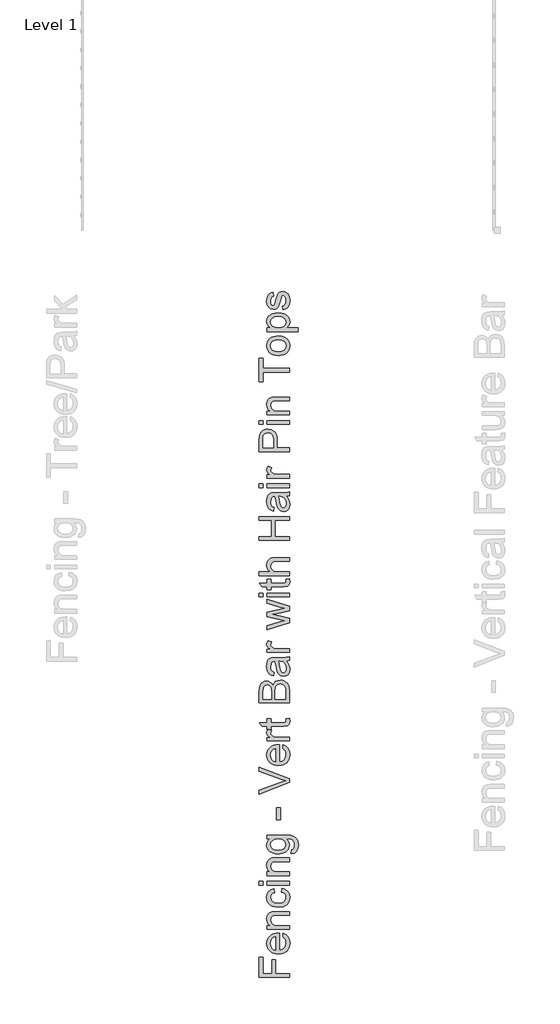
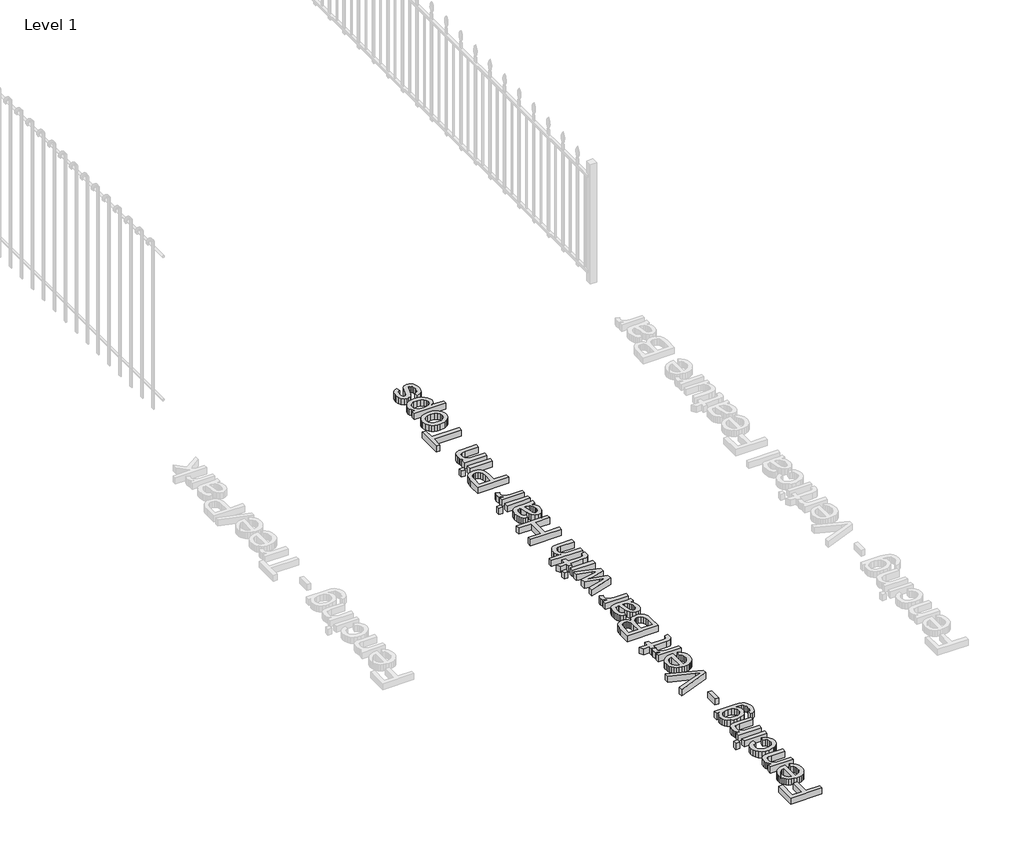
# One storey, part 2 of 7: 1 proxy.
"""IFC4 building model written with IfcOpenShell, lengths in millimetres."""

from ifc_helpers import new_model, si_unit, origin, origin_with_axes, place, context, project, spatial, polyline, outline, extrude, element, save

model = new_model("IFC4")

# Units and contexts
model_context = context("Model", 3, world=origin())
ifc_project = project(units=[si_unit("LENGTHUNIT", "METRE", prefix="MILLI")], contexts=[model_context])

# Site, building, storey
site = spatial("IfcSite", under=ifc_project)
building = spatial("IfcBuilding", under=site)
storey = spatial("IfcBuildingStorey", under=building, Name="Level 1", Elevation=0.0)

# Proxy
placement = place(None, origin())
element("IfcBuildingElementProxy", 1, Name="250mm Arial", ObjectType="250mm Arial", at=placement, inside=storey, context=model_context, shape_type="SweptSolid", body=[
    extrude(outline(polyline([(44499.2819875, -62577.9118226), (44253.1281413, -62577.9118226), (44253.1281413, -62412.5272072), (44283.8973721, -62412.5272072), (44283.8973721, -62547.1425918), (44356.9742952, -62547.1425918), (44356.9742952, -62431.7579764), (44387.7435259, -62431.7579764), (44387.7435259, -62547.1425918), (44499.2819875, -62547.1425918), (44499.2819875, -62577.9118226)])), origin_with_axes(), (0.0, 0.0, 1.0), 50.8),
    extrude(outline(polyline([(44445.4358336, -62247.5031687), (44449.2819875, -62217.3348995), (44472.0133577, -62228.2047913), (44489.0055452, -62245.5500437), (44499.5974923, -62268.9800317), (44503.1281413, -62298.1041303), (44501.6050794, -62317.1959271), (44497.0358937, -62334.2068947), (44489.4205842, -62349.1370329), (44478.7591509, -62361.9863418), (44465.3483186, -62372.3191243), (44449.484812, -62379.6996831), (44431.1686311, -62384.1280185), (44410.3997759, -62385.6041303), (44388.926669, -62384.1129944), (44370.0001365, -62379.639587), (44353.6201786, -62372.1839079), (44339.7867952, -62361.7459572), (44328.796711, -62348.9304524), (44320.9466509, -62334.342111), (44316.2366149, -62317.9809331), (44314.6666029, -62299.8469187), (44316.2328589, -62282.2969638), (44320.9316269, -62266.4259452), (44328.7629069, -62252.2338628), (44339.726699, -62239.7207168), (44353.5300344, -62229.5062487), (44369.8799442, -62222.2102), (44388.7764286, -62217.8325708), (44410.2194875, -62216.373361), (44418.5127567, -62216.5536495), (44418.5127567, -62354.8348995), (44441.5446077, -62349.5088779), (44458.476699, -62337.1365822), (44468.8883577, -62319.2805125), (44472.3589106, -62297.5031687), (44470.7513384, -62281.1269668), (44465.9286221, -62267.3348995), (44457.5902807, -62256.1269668), (44445.4358336, -62247.5031687)]), holes=[polyline([(44387.7435259, -62354.8348995), (44387.7435259, -62247.1425918), (44371.4875163, -62251.3042505), (44359.8589106, -62259.4623033), (44349.0416029, -62277.4010053), (44345.4358336, -62299.967111), (44348.312937, -62320.7077961), (44356.9442471, -62337.857736), (44370.3982735, -62349.7793106), (44387.7435259, -62354.8348995)])]), origin_with_axes(), (0.0, 0.0, 1.0), 50.8),
    extrude(outline(polyline([(44499.2819875, -62185.6041303), (44318.5127567, -62185.6041303), (44318.5127567, -62154.8348995), (44343.7531413, -62154.8348995), (44331.0277807, -62144.1452961), (44321.9382375, -62131.3072553), (44316.4845115, -62116.3207769), (44314.6666029, -62099.185861), (44320.5259779, -62070.1293706), (44327.3018192, -62058.545837), (44335.9105932, -62050.2976399), (44358.5367952, -62041.0728803), (44388.2843913, -62039.4502841), (44499.2819875, -62039.4502841), (44499.2819875, -62070.2195149), (44392.4310259, -62070.2195149), (44365.2074682, -62073.765188), (44357.1019995, -62078.6705365), (44350.8144394, -62086.295236), (44345.4358336, -62107.4190341), (44348.4556654, -62125.4403682), (44357.5151606, -62140.8024476), (44375.0181654, -62151.3267865), (44403.3685259, -62154.8348995), (44499.2819875, -62154.8348995), (44499.2819875, -62185.6041303)])), origin_with_axes(), (0.0, 0.0, 1.0), 50.8),
    extrude(outline(polyline([(44433.8973721, -61881.7579764), (44437.7435259, -61850.9887456), (44465.109812, -61859.5674716), (44485.7904009, -61875.6882649), (44498.7937062, -61897.8336976), (44503.1281413, -61924.4863418), (44501.6163475, -61941.743328), (44497.0809658, -61957.2162096), (44489.5219965, -61970.9049866), (44478.9394394, -61982.8096591), (44465.5323631, -61992.4457018), (44449.499836, -61999.3285894), (44409.5584298, -62004.8348995), (44382.1771197, -62002.4836375), (44358.4466509, -61995.4298514), (44339.2834899, -61983.560861), (44325.6041029, -61966.763986), (44317.4009779, -61946.6693346), (44314.6666029, -61924.9070149), (44318.4226125, -61898.9079163), (44329.6906413, -61878.1221591), (44347.8697279, -61863.2108009), (44372.3589106, -61854.8348995), (44376.2050644, -61885.6041303), (44362.781086, -61891.1855606), (44353.1581894, -61899.8769668), (44347.3664226, -61911.1975798), (44345.4358336, -61924.6666303), (44349.2369154, -61944.5509452), (44360.6401606, -61960.3336976), (44380.2615548, -61970.6326759), (44408.7170836, -61974.0656687), (44437.5557255, -61970.7077961), (44457.2447279, -61960.6341783), (44468.5803649, -61945.1368827), (44472.3589106, -61925.5079764), (44470.0001365, -61909.5749836), (44462.9238144, -61896.5115822), (44450.9496557, -61887.0088779), (44433.8973721, -61881.7579764)])), origin_with_axes(), (0.0, 0.0, 1.0), 50.8),
    extrude(outline(polyline([(44283.8973721, -61824.0656687), (44253.1281413, -61824.0656687), (44253.1281413, -61793.296438), (44283.8973721, -61793.296438), (44283.8973721, -61824.0656687)])), origin_with_axes(), (0.0, 0.0, 1.0), 50.8),
    extrude(outline(polyline([(44499.2819875, -61824.0656687), (44318.5127567, -61824.0656687), (44318.5127567, -61793.296438), (44499.2819875, -61793.296438), (44499.2819875, -61824.0656687)])), origin_with_axes(), (0.0, 0.0, 1.0), 50.8),
    extrude(outline(polyline([(44499.2819875, -61747.1425918), (44318.5127567, -61747.1425918), (44318.5127567, -61716.373361), (44343.7531413, -61716.373361), (44331.0277807, -61705.6837577), (44321.9382375, -61692.8457168), (44316.4845115, -61677.8592384), (44314.6666029, -61660.7243226), (44320.5259779, -61631.6678322), (44327.3018192, -61620.0842985), (44335.9105932, -61611.8361014), (44358.5367952, -61602.6113418), (44388.2843913, -61600.9887456), (44499.2819875, -61600.9887456), (44499.2819875, -61631.7579764), (44392.4310259, -61631.7579764), (44365.2074682, -61635.3036495), (44357.1019995, -61640.2089981), (44350.8144394, -61647.8336976), (44345.4358336, -61668.9574956), (44348.4556654, -61686.9788298), (44357.5151606, -61702.3409091), (44375.0181654, -61712.8652481), (44403.3685259, -61716.373361), (44499.2819875, -61716.373361), (44499.2819875, -61747.1425918)])), origin_with_axes(), (0.0, 0.0, 1.0), 50.8),
    extrude(outline(polyline([(44514.6666029, -61566.373361), (44518.5127567, -61535.6041303), (44528.1281413, -61532.2086976), (44534.7387182, -61525.6281687), (44539.8769394, -61512.6924716), (44541.5896798, -61495.7603803), (44539.6515788, -61477.701486), (44533.8372759, -61464.2699956), (44524.5223721, -61454.9550918), (44512.0824682, -61449.2459572), (44476.2050644, -61447.1425918), (44493.5127567, -61468.8072553), (44499.2819875, -61495.2195149), (44497.6030512, -61512.0896321), (44492.5662423, -61526.9427721), (44484.1715608, -61539.778935), (44472.4190067, -61550.5981206), (44442.8817471, -61565.3141663), (44407.9959298, -61570.2195149), (44383.1536822, -61568.0184932), (44360.3096317, -61561.4154283), (44340.9511582, -61550.6431928), (44326.5656413, -61535.9346591), (44317.6413625, -61517.7931327), (44314.6666029, -61496.7219187), (44316.3492952, -61482.3326459), (44321.3973721, -61469.2730005), (44329.8108336, -61457.5429824), (44341.5896798, -61447.1425918), (44318.5127567, -61447.1425918), (44318.5127567, -61416.373361), (44474.5824682, -61416.373361), (44510.6176245, -61418.4767264), (44534.3480932, -61424.7868226), (44550.0857735, -61435.6567144), (44562.1425644, -61451.4394668), (44569.804824, -61471.7895269), (44572.3589106, -61496.3613418), (44568.7606533, -61524.9896471), (44557.9658817, -61547.5332168), (44539.9445476, -61561.9938538), (44514.6666029, -61566.373361)]), holes=[polyline([(44405.8925644, -61539.4502841), (44434.1152207, -61536.1675317), (44453.5187663, -61526.3192745), (44464.7642591, -61511.5130846), (44468.5127567, -61493.3565341), (44464.7867952, -61475.3352), (44453.6089106, -61460.4538899), (44434.4532615, -61450.4704163), (44406.7940067, -61447.1425918), (44380.1188264, -61450.5680726), (44360.9105932, -61460.8445149), (44349.3045235, -61475.9436735), (44345.4358336, -61493.8373033), (44349.2444274, -61511.4079163), (44360.6702086, -61526.138986), (44379.5929851, -61536.1224596), (44405.8925644, -61539.4502841)])]), origin_with_axes(), (0.0, 0.0, 1.0), 50.8),
    extrude(outline(polyline([(44426.2050644, -61289.4502841), (44395.4358336, -61289.4502841), (44395.4358336, -61193.296438), (44426.2050644, -61193.296438), (44426.2050644, -61289.4502841)])), origin_with_axes(), (0.0, 0.0, 1.0), 50.8),
    extrude(outline(polyline([(44499.2819875, -60985.9647072), (44253.1281413, -61083.921438), (44253.1281413, -61050.9887456), (44430.4718913, -60985.4238418), (44470.4358336, -60972.1425918), (44430.4718913, -60959.0416303), (44253.1281413, -60893.296438), (44253.1281413, -60860.3637456), (44499.2819875, -60954.1738418), (44499.2819875, -60985.9647072)])), origin_with_axes(), (0.0, 0.0, 1.0), 50.8),
    extrude(outline(polyline([(44445.4358336, -60709.0416303), (44449.2819875, -60678.873361), (44472.0133577, -60689.7432529), (44489.0055452, -60707.0885053), (44499.5974923, -60730.5184932), (44503.1281413, -60759.6425918), (44501.6050794, -60778.7343887), (44497.0358937, -60795.7453562), (44489.4205842, -60810.6754944), (44478.7591509, -60823.5248033), (44465.3483186, -60833.8575858), (44449.484812, -60841.2381447), (44431.1686311, -60845.66648), (44410.3997759, -60847.1425918), (44388.926669, -60845.651456), (44370.0001365, -60841.1780485), (44353.6201786, -60833.7223694), (44339.7867952, -60823.2844187), (44328.796711, -60810.4689139), (44320.9466509, -60795.8805726), (44316.2366149, -60779.5193947), (44314.6666029, -60761.3853803), (44316.2328589, -60743.8354253), (44320.9316269, -60727.9644067), (44328.7629069, -60713.7723244), (44339.726699, -60701.2591783), (44353.5300344, -60691.0447102), (44369.8799442, -60683.7486615), (44388.7764286, -60679.3710323), (44410.2194875, -60677.9118226), (44418.5127567, -60678.092111), (44418.5127567, -60816.373361), (44441.5446077, -60811.0473394), (44458.476699, -60798.6750437), (44468.8883577, -60780.818974), (44472.3589106, -60759.0416303), (44470.7513384, -60742.6654283), (44465.9286221, -60728.873361), (44457.5902807, -60717.6654283), (44445.4358336, -60709.0416303)]), holes=[polyline([(44387.7435259, -60816.373361), (44387.7435259, -60708.6810533), (44371.4875163, -60712.842712), (44359.8589106, -60721.0007649), (44349.0416029, -60738.9394668), (44345.4358336, -60761.5055726), (44348.312937, -60782.2462577), (44356.9442471, -60799.3961976), (44370.3982735, -60811.3177721), (44387.7435259, -60816.373361)])]), origin_with_axes(), (0.0, 0.0, 1.0), 50.8),
    extrude(outline(polyline([(44499.2819875, -60647.1425918), (44318.5127567, -60647.1425918), (44318.5127567, -60620.2195149), (44345.2555452, -60620.2195149), (44329.7507375, -60610.2736014), (44320.6161221, -60601.108938), (44314.6666029, -60581.8781687), (44317.0404009, -60566.5536495), (44324.1617952, -60550.9887456), (44351.7459298, -60561.265188), (44345.4358336, -60582.8998033), (44346.9532615, -60592.0870029), (44351.5055452, -60600.2976399), (44368.3324682, -60611.3853803), (44404.2699682, -60616.373361), (44499.2819875, -60616.373361), (44499.2819875, -60647.1425918)])), origin_with_axes(), (0.0, 0.0, 1.0), 50.8),
    extrude(outline(polyline([(44473.6209298, -60466.373361), (44500.1834298, -60462.5272072), (44503.1281413, -60485.5440341), (44501.8510981, -60500.3126639), (44498.0199682, -60511.3252841), (44484.6185259, -60524.185861), (44449.7026606, -60527.9118226), (44349.2819875, -60527.9118226), (44349.2819875, -60550.9887456), (44318.5127567, -60550.9887456), (44318.5127567, -60527.9118226), (44274.5824682, -60527.9118226), (44256.4935259, -60497.1425918), (44318.5127567, -60497.1425918), (44318.5127567, -60466.373361), (44349.2819875, -60466.373361), (44349.2819875, -60497.1425918), (44448.8012182, -60497.1425918), (44464.6666029, -60495.5199956), (44470.2855932, -60490.2615822), (44472.3589106, -60479.7748033), (44473.6209298, -60466.373361)])), origin_with_axes(), (0.0, 0.0, 1.0), 50.8),
    extrude(outline(polyline([(44499.2819875, -60335.6041303), (44253.1281413, -60335.6041303), (44253.1281413, -60241.6738418), (44254.938538, -60215.8400077), (44260.3697279, -60195.670236), (44269.5569274, -60180.2105005), (44282.6353529, -60168.5067745), (44298.0199682, -60161.1374836), (44314.1257375, -60158.6810533), (44328.9469514, -60160.7468586), (44342.8817471, -60166.9442745), (44355.0737543, -60177.3183731), (44364.6666029, -60191.9142264), (44373.7711702, -60174.4788298), (44387.6233336, -60161.5957168), (44405.3066269, -60153.6404884), (44425.9045836, -60150.9887456), (44443.0695476, -60152.7991423), (44458.9875163, -60158.2303322), (44472.524175, -60166.3358009), (44482.5452086, -60176.1690341), (44495.0452086, -60202.9418706), (44499.2819875, -60242.3949956), (44499.2819875, -60335.6041303)]), holes=[polyline([(44353.1281413, -60304.8348995), (44353.1281413, -60248.6449956), (44350.4839106, -60215.8324956), (44345.9241149, -60204.3466182), (44339.0956894, -60196.0909091), (44330.1038024, -60191.1104404), (44319.0536221, -60189.4502841), (44308.3264586, -60190.9977601), (44298.9815067, -60195.640188), (44291.687336, -60203.1672312), (44287.1125163, -60213.3685533), (44283.8973721, -60252.9118226), (44283.8973721, -60304.8348995), (44353.1281413, -60304.8348995)]), polyline([(44468.5127567, -60304.8348995), (44468.5127567, -60241.733938), (44467.3108336, -60218.8973995), (44460.6101125, -60199.576486), (44446.9382375, -60186.7760053), (44426.2050644, -60181.7579764), (44413.3444875, -60183.2303322), (44402.2867952, -60187.6473995), (44393.640461, -60195.3622432), (44388.0139586, -60206.7279283), (44383.8973721, -60244.7387456), (44383.8973721, -60304.8348995), (44468.5127567, -60304.8348995)])]), origin_with_axes(), (0.0, 0.0, 1.0), 50.8),
    extrude(outline(polyline([(44476.2050644, -59997.1425918), (44488.8102327, -60011.8436134), (44497.0584298, -60026.9803322), (44501.6107134, -60042.8983009), (44503.1281413, -60059.9430726), (44499.4773, -60085.6567144), (44488.5247759, -60104.624563), (44471.8931654, -60116.3207769), (44451.2050644, -60120.2195149), (44426.8661221, -60114.3300918), (44409.1978529, -60098.8553322), (44399.101699, -60077.310861), (44394.4742952, -60050.6882649), (44383.8973721, -59997.3228803), (44377.0464106, -59997.1425918), (44363.3144394, -59999.2609812), (44354.3300644, -60005.6161495), (44347.6593913, -60019.8288899), (44345.4358336, -60039.6305726), (44346.9157014, -60057.9598995), (44351.3553048, -60070.7603803), (44359.5659418, -60079.4893466), (44372.3589106, -60085.6041303), (44368.5127567, -60116.373361), (44351.6858336, -60111.0323154), (44338.4646798, -60103.062063), (44328.3535019, -60091.7189139), (44320.8565067, -60076.2591783), (44316.2140788, -60057.3514259), (44314.6666029, -60035.6642264), (44316.0337904, -60014.8634452), (44320.1353529, -59998.374563), (44326.3027207, -59985.9421711), (44333.867324, -59977.310861), (44354.7507375, -59967.8757649), (44381.6738144, -59966.373361), (44419.9550644, -59966.373361), (44473.4105932, -59964.810861), (44499.2819875, -59958.6810533), (44499.2819875, -59989.4502841), (44476.2050644, -59997.1425918)]), holes=[polyline([(44414.6666029, -59997.1425918), (44424.101699, -60046.7820149), (44429.0896798, -60073.2543706), (44437.2026606, -60085.2435533), (44449.0416029, -60089.4502841), (44458.1912423, -60087.1591182), (44465.6882375, -60080.2856206), (44470.6912423, -60068.9800317), (44472.3589106, -60053.3925918), (44470.5184658, -60036.8661495), (44464.9971317, -60022.2627841), (44456.8616149, -60010.4238418), (44447.1786221, -60002.1906687), (44423.3805452, -59997.3228803), (44414.6666029, -59997.1425918)])]), origin_with_axes(), (0.0, 0.0, 1.0), 50.8),
    extrude(outline(polyline([(44499.2819875, -59924.0656687), (44318.5127567, -59924.0656687), (44318.5127567, -59897.1425918), (44345.2555452, -59897.1425918), (44329.7507375, -59887.1966783), (44320.6161221, -59878.0320149), (44314.6666029, -59858.8012456), (44317.0404009, -59843.4767264), (44324.1617952, -59827.9118226), (44351.7459298, -59838.1882649), (44345.4358336, -59859.8228803), (44346.9532615, -59869.0100798), (44351.5055452, -59877.2207168), (44368.3324682, -59888.3084572), (44404.2699682, -59893.296438), (44499.2819875, -59893.296438), (44499.2819875, -59924.0656687)])), origin_with_axes(), (0.0, 0.0, 1.0), 50.8),
    extrude(outline(polyline([(44499.2819875, -59682.5392264), (44318.5127567, -59737.5272072), (44318.5127567, -59705.5560533), (44423.9815067, -59674.3661495), (44461.6617952, -59665.0512456), (44425.3637182, -59657.4190341), (44318.5127567, -59632.5993226), (44318.5127567, -59595.9406687), (44425.0632375, -59571.2411495), (44457.9358336, -59564.4502841), (44423.2603529, -59554.7147072), (44318.5127567, -59523.4647072), (44318.5127567, -59491.373361), (44499.2819875, -59546.7820149), (44499.2819875, -59583.9815341), (44393.2723721, -59607.5993226), (44360.2194875, -59614.4502841), (44499.2819875, -59644.9190341), (44499.2819875, -59682.5392264)])), origin_with_axes(), (0.0, 0.0, 1.0), 50.8),
    extrude(outline(polyline([(44283.8973721, -59470.2195149), (44253.1281413, -59470.2195149), (44253.1281413, -59439.4502841), (44283.8973721, -59439.4502841), (44283.8973721, -59470.2195149)])), origin_with_axes(), (0.0, 0.0, 1.0), 50.8),
    extrude(outline(polyline([(44499.2819875, -59470.2195149), (44318.5127567, -59470.2195149), (44318.5127567, -59439.4502841), (44499.2819875, -59439.4502841), (44499.2819875, -59470.2195149)])), origin_with_axes(), (0.0, 0.0, 1.0), 50.8),
    extrude(outline(polyline([(44473.6209298, -59327.9118226), (44500.1834298, -59324.0656687), (44503.1281413, -59347.0824956), (44501.8510981, -59361.8511255), (44498.0199682, -59372.8637456), (44484.6185259, -59385.7243226), (44449.7026606, -59389.4502841), (44349.2819875, -59389.4502841), (44349.2819875, -59412.5272072), (44318.5127567, -59412.5272072), (44318.5127567, -59389.4502841), (44274.5824682, -59389.4502841), (44256.4935259, -59358.6810533), (44318.5127567, -59358.6810533), (44318.5127567, -59327.9118226), (44349.2819875, -59327.9118226), (44349.2819875, -59358.6810533), (44448.8012182, -59358.6810533), (44464.6666029, -59357.0584572), (44470.2855932, -59351.8000437), (44472.3589106, -59341.3132649), (44473.6209298, -59327.9118226)])), origin_with_axes(), (0.0, 0.0, 1.0), 50.8),
    extrude(outline(polyline([(44499.2819875, -59297.1425918), (44253.1281413, -59297.1425918), (44253.1281413, -59266.373361), (44343.632949, -59266.373361), (44330.9601726, -59255.0715281), (44321.9081894, -59242.3799716), (44316.4769995, -59228.2986916), (44314.6666029, -59212.827688), (44316.6422639, -59194.2429524), (44322.5692471, -59178.2723995), (44331.9818072, -59165.6972793), (44344.414199, -59157.2988418), (44361.4965307, -59152.5662697), (44384.8589106, -59150.9887456), (44499.2819875, -59150.9887456), (44499.2819875, -59181.7579764), (44388.0440067, -59181.7579764), (44368.7831894, -59184.2068947), (44355.5920836, -59191.5536495), (44347.9748961, -59203.3925918), (44345.4358336, -59219.3180726), (44347.148574, -59232.3213779), (44352.2867952, -59244.5284091), (44360.3547038, -59254.639587), (44370.8565067, -59261.3553322), (44403.2483336, -59266.373361), (44499.2819875, -59266.373361), (44499.2819875, -59297.1425918)])), origin_with_axes(), (0.0, 0.0, 1.0), 50.8),
    extrude(outline(polyline([(44499.2819875, -59008.6810533), (44253.1281413, -59008.6810533), (44253.1281413, -58977.9118226), (44353.1281413, -58977.9118226), (44353.1281413, -58847.1425918), (44253.1281413, -58847.1425918), (44253.1281413, -58816.373361), (44499.2819875, -58816.373361), (44499.2819875, -58847.1425918), (44383.8973721, -58847.1425918), (44383.8973721, -58977.9118226), (44499.2819875, -58977.9118226), (44499.2819875, -59008.6810533)])), origin_with_axes(), (0.0, 0.0, 1.0), 50.8),
    extrude(outline(polyline([(44476.2050644, -58650.9887456), (44488.8102327, -58665.6897673), (44497.0584298, -58680.826486), (44501.6107134, -58696.7444548), (44503.1281413, -58713.7892264), (44499.4773, -58739.5028682), (44488.5247759, -58758.4707168), (44471.8931654, -58770.1669307), (44451.2050644, -58774.0656687), (44426.8661221, -58768.1762456), (44409.1978529, -58752.701486), (44399.101699, -58731.1570149), (44394.4742952, -58704.5344187), (44383.8973721, -58651.1690341), (44377.0464106, -58650.9887456), (44363.3144394, -58653.1071351), (44354.3300644, -58659.4623033), (44347.6593913, -58673.6750437), (44345.4358336, -58693.4767264), (44346.9157014, -58711.8060533), (44351.3553048, -58724.6065341), (44359.5659418, -58733.3355005), (44372.3589106, -58739.4502841), (44368.5127567, -58770.2195149), (44351.6858336, -58764.8784692), (44338.4646798, -58756.9082168), (44328.3535019, -58745.5650678), (44320.8565067, -58730.1053322), (44316.2140788, -58711.1975798), (44314.6666029, -58689.5103803), (44316.0337904, -58668.709599), (44320.1353529, -58652.2207168), (44326.3027207, -58639.788325), (44333.867324, -58631.1570149), (44354.7507375, -58621.7219187), (44381.6738144, -58620.2195149), (44419.9550644, -58620.2195149), (44473.4105932, -58618.6570149), (44499.2819875, -58612.5272072), (44499.2819875, -58643.296438), (44476.2050644, -58650.9887456)]), holes=[polyline([(44414.6666029, -58650.9887456), (44424.101699, -58700.6281687), (44429.0896798, -58727.1005245), (44437.2026606, -58739.0897072), (44449.0416029, -58743.296438), (44458.1912423, -58741.0052721), (44465.6882375, -58734.1317745), (44470.6912423, -58722.8261856), (44472.3589106, -58707.2387456), (44470.5184658, -58690.7123033), (44464.9971317, -58676.108938), (44456.8616149, -58664.2699956), (44447.1786221, -58656.0368226), (44423.3805452, -58651.1690341), (44414.6666029, -58650.9887456)])]), origin_with_axes(), (0.0, 0.0, 1.0), 50.8),
    extrude(outline(polyline([(44283.8973721, -58577.9118226), (44253.1281413, -58577.9118226), (44253.1281413, -58547.1425918), (44283.8973721, -58547.1425918), (44283.8973721, -58577.9118226)])), origin_with_axes(), (0.0, 0.0, 1.0), 50.8),
    extrude(outline(polyline([(44499.2819875, -58577.9118226), (44318.5127567, -58577.9118226), (44318.5127567, -58547.1425918), (44499.2819875, -58547.1425918), (44499.2819875, -58577.9118226)])), origin_with_axes(), (0.0, 0.0, 1.0), 50.8),
    extrude(outline(polyline([(44499.2819875, -58500.9887456), (44318.5127567, -58500.9887456), (44318.5127567, -58474.0656687), (44345.2555452, -58474.0656687), (44329.7507375, -58464.1197553), (44320.6161221, -58454.9550918), (44314.6666029, -58435.7243226), (44317.0404009, -58420.3998033), (44324.1617952, -58404.8348995), (44351.7459298, -58415.1113418), (44345.4358336, -58436.7459572), (44346.9532615, -58445.9331567), (44351.5055452, -58454.1437937), (44368.3324682, -58465.2315341), (44404.2699682, -58470.2195149), (44499.2819875, -58470.2195149), (44499.2819875, -58500.9887456)])), origin_with_axes(), (0.0, 0.0, 1.0), 50.8),
    extrude(outline(polyline([(44499.2819875, -58285.6041303), (44253.1281413, -58285.6041303), (44253.1281413, -58194.3781687), (44255.4718913, -58157.5993226), (44259.8513985, -58141.2005846), (44266.9803048, -58127.701486), (44277.1816269, -58116.8315942), (44290.7783817, -58108.3204764), (44306.8165428, -58102.8216783), (44324.3420836, -58100.9887456), (44353.3535019, -58105.9391663), (44377.5271798, -58120.7904283), (44387.0449082, -58132.6838328), (44393.8432856, -58148.5623634), (44397.922312, -58168.4260203), (44399.2819875, -58192.2748033), (44399.2819875, -58254.8348995), (44499.2819875, -58254.8348995), (44499.2819875, -58285.6041303)]), holes=[polyline([(44368.5127567, -58254.8348995), (44368.5127567, -58190.4719187), (44365.6882375, -58163.1882649), (44357.2146798, -58145.1594187), (44343.617925, -58135.108337), (44325.4238144, -58131.7579764), (44311.601699, -58133.7336375), (44299.9430452, -58139.6606206), (44291.1690067, -58148.8027481), (44286.0007375, -58160.4238418), (44283.8973721, -58191.1930726), (44283.8973721, -58254.8348995), (44368.5127567, -58254.8348995)])]), origin_with_axes(), (0.0, 0.0, 1.0), 50.8),
    extrude(outline(polyline([(44283.8973721, -58062.5272072), (44253.1281413, -58062.5272072), (44253.1281413, -58031.7579764), (44283.8973721, -58031.7579764), (44283.8973721, -58062.5272072)])), origin_with_axes(), (0.0, 0.0, 1.0), 50.8),
    extrude(outline(polyline([(44499.2819875, -58062.5272072), (44318.5127567, -58062.5272072), (44318.5127567, -58031.7579764), (44499.2819875, -58031.7579764), (44499.2819875, -58062.5272072)])), origin_with_axes(), (0.0, 0.0, 1.0), 50.8),
    extrude(outline(polyline([(44499.2819875, -57985.6041303), (44318.5127567, -57985.6041303), (44318.5127567, -57954.8348995), (44343.7531413, -57954.8348995), (44331.0277807, -57944.1452961), (44321.9382375, -57931.3072553), (44316.4845115, -57916.3207769), (44314.6666029, -57899.185861), (44320.5259779, -57870.1293706), (44327.3018192, -57858.545837), (44335.9105932, -57850.2976399), (44358.5367952, -57841.0728803), (44388.2843913, -57839.4502841), (44499.2819875, -57839.4502841), (44499.2819875, -57870.2195149), (44392.4310259, -57870.2195149), (44365.2074682, -57873.765188), (44357.1019995, -57878.6705365), (44350.8144394, -57886.295236), (44345.4358336, -57907.4190341), (44348.4556654, -57925.4403682), (44357.5151606, -57940.8024476), (44375.0181654, -57951.3267865), (44403.3685259, -57954.8348995), (44499.2819875, -57954.8348995), (44499.2819875, -57985.6041303)])), origin_with_axes(), (0.0, 0.0, 1.0), 50.8),
    extrude(outline(polyline([(44499.2819875, -57635.6041303), (44283.8973721, -57635.6041303), (44283.8973721, -57716.373361), (44253.1281413, -57716.373361), (44253.1281413, -57524.0656687), (44283.8973721, -57524.0656687), (44283.8973721, -57604.8348995), (44499.2819875, -57604.8348995), (44499.2819875, -57635.6041303)])), origin_with_axes(), (0.0, 0.0, 1.0), 50.8),
    extrude(outline(polyline([(44408.8973721, -57500.9887456), (44385.4861642, -57499.3248334), (44365.3126365, -57494.3330966), (44348.3767892, -57486.0135353), (44334.6786221, -57474.3661495), (44319.6696077, -57449.6966783), (44314.6666029, -57420.1594187), (44316.1896648, -57403.1841333), (44320.7588505, -57387.8352), (44328.37416, -57374.1126188), (44339.0355932, -57362.0163899), (44352.3825734, -57352.1437186), (44368.0545235, -57345.0918106), (44406.3733336, -57339.4502841), (44437.4580692, -57341.9442745), (44461.1209298, -57349.4262456), (44478.8417832, -57361.678349), (44492.1004971, -57378.482736), (44500.3712303, -57398.4421711), (44503.1281413, -57420.1594187), (44501.6107134, -57437.3826008), (44497.0584298, -57452.8742625), (44489.4712904, -57466.6344037), (44478.8492952, -57478.6630245), (44465.3727327, -57488.4305275), (44449.2218913, -57495.4073154), (44408.8973721, -57500.9887456)]), holes=[polyline([(44408.8372759, -57470.2195149), (44436.6843312, -57466.6588178), (44456.523574, -57455.9767264), (44468.4000764, -57439.9010053), (44472.3589106, -57420.1594187), (44468.3775404, -57400.5079764), (44456.4334298, -57384.4623033), (44436.3312663, -57373.780212), (44407.8757375, -57370.2195149), (44380.8399803, -57373.8027481), (44361.2711702, -57384.5524476), (44349.3946678, -57400.6206567), (44345.4358336, -57420.1594187), (44349.3796437, -57439.9010053), (44361.211074, -57455.9767264), (44381.0052447, -57466.6588178), (44408.8372759, -57470.2195149)])]), origin_with_axes(), (0.0, 0.0, 1.0), 50.8),
    extrude(outline(polyline([(44568.5127567, -57304.8348995), (44318.5127567, -57304.8348995), (44318.5127567, -57274.0656687), (44348.6810259, -57274.0656687), (44333.7997158, -57264.029611), (44323.1702086, -57252.7916303), (44316.7925043, -57239.6906687), (44314.6666029, -57224.0656687), (44317.6413625, -57203.2573755), (44326.5656413, -57185.0632649), (44340.898574, -57170.249563), (44360.0992952, -57159.5824956), (44382.7705692, -57153.1371831), (44407.5151606, -57150.9887456), (44433.8297639, -57153.4151279), (44457.3649202, -57160.6942745), (44476.9262182, -57172.593313), (44491.3192471, -57188.8793706), (44500.1759178, -57207.8472192), (44503.1281413, -57227.7916303), (44501.1524803, -57241.9367625), (44495.2254971, -57254.5644668), (44475.2435259, -57274.0656687), (44568.5127567, -57274.0656687), (44568.5127567, -57304.8348995)]), holes=[polyline([(44410.3396798, -57274.0656687), (44437.9238144, -57270.7378442), (44457.2146798, -57260.7543706), (44468.5728529, -57246.0233009), (44472.3589106, -57228.452688), (44468.4376365, -57210.5966182), (44456.6738144, -57195.4899476), (44436.6768192, -57185.1909692), (44408.0560259, -57181.7579764), (44380.6221317, -57185.108337), (44361.0608336, -57195.1594187), (44349.3420836, -57209.8679524), (44345.4358336, -57227.1906687), (44349.5899803, -57244.5809932), (44362.0524202, -57259.8529283), (44382.4325283, -57270.5124836), (44410.3396798, -57274.0656687)])]), origin_with_axes(), (0.0, 0.0, 1.0), 50.8),
    extrude(outline(polyline([(44445.4358336, -57127.9118226), (44441.5896798, -57097.1425918), (44454.7507375, -57092.2898274), (44464.4262182, -57082.8998033), (44470.3757375, -57068.9124235), (44472.3589106, -57050.2675918), (44470.5410019, -57031.8481206), (44465.0872759, -57018.8973995), (44457.1846317, -57011.2351399), (44448.0199682, -57008.6810533), (44440.1774202, -57011.2501639), (44434.1978529, -57018.9574956), (44425.4238144, -57050.6281687), (44410.3697279, -57096.9623033), (44402.8051245, -57108.6885654), (44392.7916029, -57117.1846591), (44380.9676846, -57122.3454163), (44367.9718913, -57124.0656687), (44345.0452086, -57118.5368226), (44327.5271798, -57103.452688), (44318.4226125, -57083.8913899), (44314.6666029, -57057.4190341), (44316.1765187, -57037.3919908), (44320.7062663, -57019.9791303), (44327.8126365, -57005.9767264), (44337.0524202, -56996.1810533), (44349.109211, -56989.6906687), (44364.6666029, -56985.6041303), (44368.5127567, -57016.373361), (44358.8297639, -57020.257075), (44351.5355932, -57027.9418706), (44346.9607735, -57039.5028682), (44345.4358336, -57055.015188), (44346.8931654, -57072.6834572), (44351.2651606, -57084.4623033), (44357.5752567, -57091.0879043), (44364.8468913, -57093.296438), (44373.8012182, -57089.6305726), (44380.5920836, -57078.1522072), (44387.1425644, -57051.6498033), (44401.6257375, -57006.4875437), (44408.5518192, -56994.5584572), (44418.0319875, -56985.513986), (44430.0962904, -56979.8123634), (44444.7747759, -56977.9118226), (44459.9490548, -56980.1428923), (44474.2218913, -56986.8361014), (44486.4739947, -56997.7360413), (44495.586074, -57012.5873033), (44501.2426245, -57030.5260053), (44503.1281413, -57050.6882649), (44499.492324, -57081.7129043), (44488.5848721, -57104.3541303), (44470.5259779, -57119.468313), (44445.4358336, -57127.9118226)])), origin_with_axes(), (0.0, 0.0, 1.0), 50.8),
])

save(model, "model.ifc")
